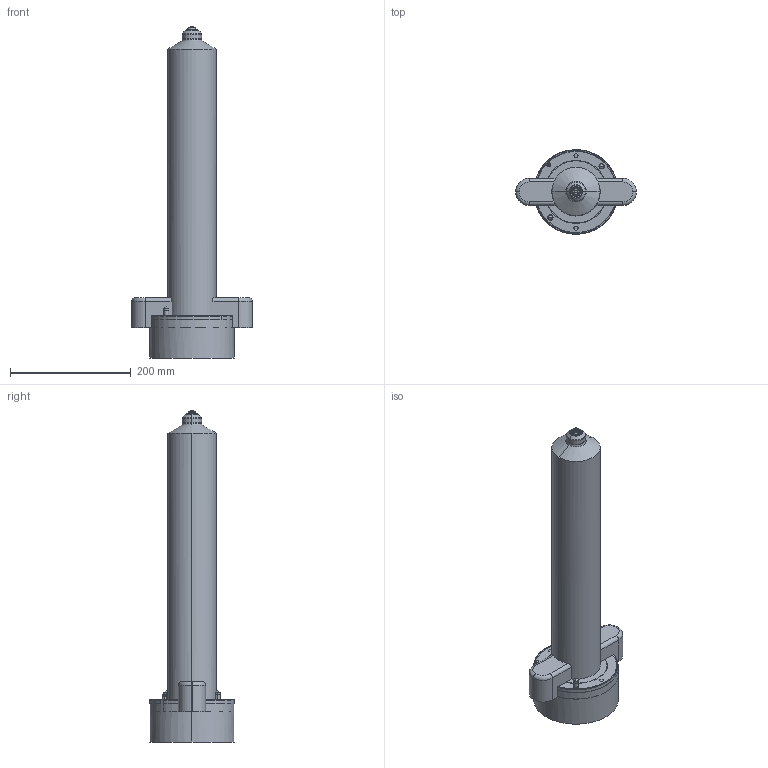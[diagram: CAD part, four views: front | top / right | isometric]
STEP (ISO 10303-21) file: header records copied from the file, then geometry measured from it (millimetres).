
FILE_DESCRIPTION (( 'STEP AP214' ), '1' );
FILE_NAME ('SB24T_OPEN_A500.STEP', '2009-07-28T19:40:17', ( 'Synventive Molding Solutions' ), ( 'Synventive Molding Solutions' ), 'SwSTEP 2.0', 'SolidWorks 2008', '' );
FILE_SCHEMA (( 'AUTOMOTIVE_DESIGN' ));
Length unit declared in the file: millimetre
Products named in the file (1): SB24T_OPEN_A500
Bounding box: 200 x 140 x 550 mm (x, y, z)
Volume: 5183047.2 mm3; surface area: 387197.6 mm2
Topology: 4 solids, 11 shells, 578 faces, 1381 edges, 850 vertices
Faces by surface type: cylinder 224, plane 164, torus 98, cone 78, sphere 14
Entity records: 24953 total; most frequent: CARTESIAN_POINT 5049, DIRECTION 2988, ORIENTED_EDGE 2722, EDGE_CURVE 1361, AXIS2_PLACEMENT_3D 1224, VERTEX_POINT 848, CIRCLE 645, EDGE_LOOP 637
